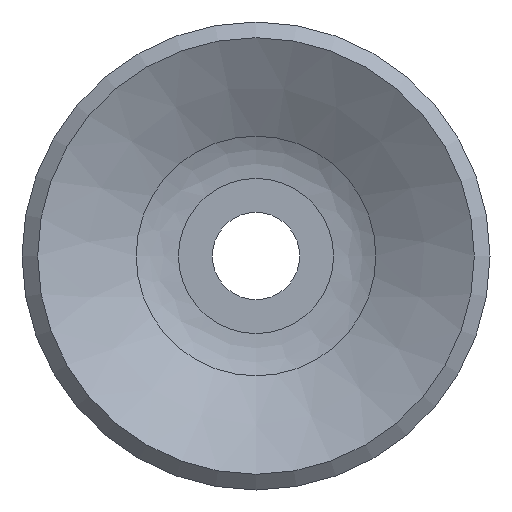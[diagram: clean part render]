
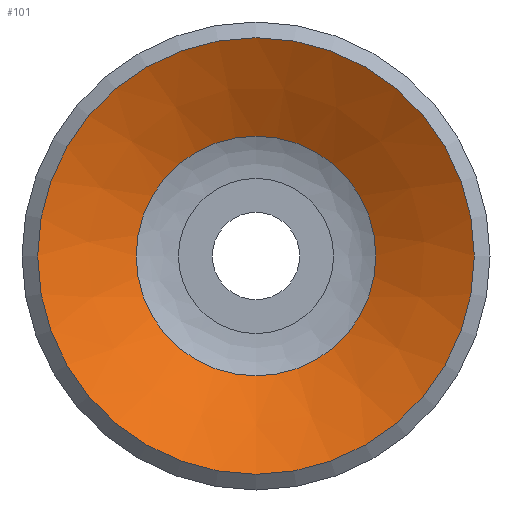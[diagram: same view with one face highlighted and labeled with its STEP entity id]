
A CAD part, front view. The second image highlights one B-rep face of the part: STEP entity #101.
In plain terms, the highlighted conical face has half-angle 61 degrees and reference radius 2.746 mm.
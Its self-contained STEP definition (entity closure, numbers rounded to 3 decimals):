
#19 = CARTESIAN_POINT ( 'NONE',  ( 0., 1.249, 0. ) ) ;
#21 = EDGE_CURVE ( 'NONE', #153, #153, #58, .T. ) ;
#23 = CARTESIAN_POINT ( 'NONE',  ( 0., 1.249, 0. ) ) ;
#58 = CIRCLE ( 'NONE', #203, 5. ) ;
#66 = CONICAL_SURFACE ( 'NONE', #226, 2.746, 1.065 ) ;
#68 = CARTESIAN_POINT ( 'NONE',  ( 0., 0., 0. ) ) ;
#82 = ORIENTED_EDGE ( 'NONE', *, *, #113, .F. ) ;
#91 = FACE_BOUND ( 'NONE', #162, .T. ) ;
#101 = ADVANCED_FACE ( 'NONE', ( #332, #91 ), #66, .F. ) ;
#113 = EDGE_CURVE ( 'NONE', #267, #267, #365, .T. ) ;
#131 = ORIENTED_EDGE ( 'NONE', *, *, #21, .T. ) ;
#144 = DIRECTION ( 'NONE',  ( 0., -1., 0. ) ) ;
#153 = VERTEX_POINT ( 'NONE', #218 ) ;
#162 = EDGE_LOOP ( 'NONE', ( #82 ) ) ;
#191 = CARTESIAN_POINT ( 'NONE',  ( 0., 1.249, -2.746 ) ) ;
#196 = DIRECTION ( 'NONE',  ( 0., 0., -1. ) ) ;
#203 = AXIS2_PLACEMENT_3D ( 'NONE', #68, #358, #196 ) ;
#210 = AXIS2_PLACEMENT_3D ( 'NONE', #23, #144, #334 ) ;
#218 = CARTESIAN_POINT ( 'NONE',  ( 0., 0., -5. ) ) ;
#226 = AXIS2_PLACEMENT_3D ( 'NONE', #19, #233, #333 ) ;
#233 = DIRECTION ( 'NONE',  ( 0., -1., 0. ) ) ;
#264 = EDGE_LOOP ( 'NONE', ( #131 ) ) ;
#267 = VERTEX_POINT ( 'NONE', #191 ) ;
#332 = FACE_OUTER_BOUND ( 'NONE', #264, .T. ) ;
#333 = DIRECTION ( 'NONE',  ( 0., 0., -1. ) ) ;
#334 = DIRECTION ( 'NONE',  ( 0., 0., -1. ) ) ;
#358 = DIRECTION ( 'NONE',  ( 0., -1., 0. ) ) ;
#365 = CIRCLE ( 'NONE', #210, 2.746 ) ;
